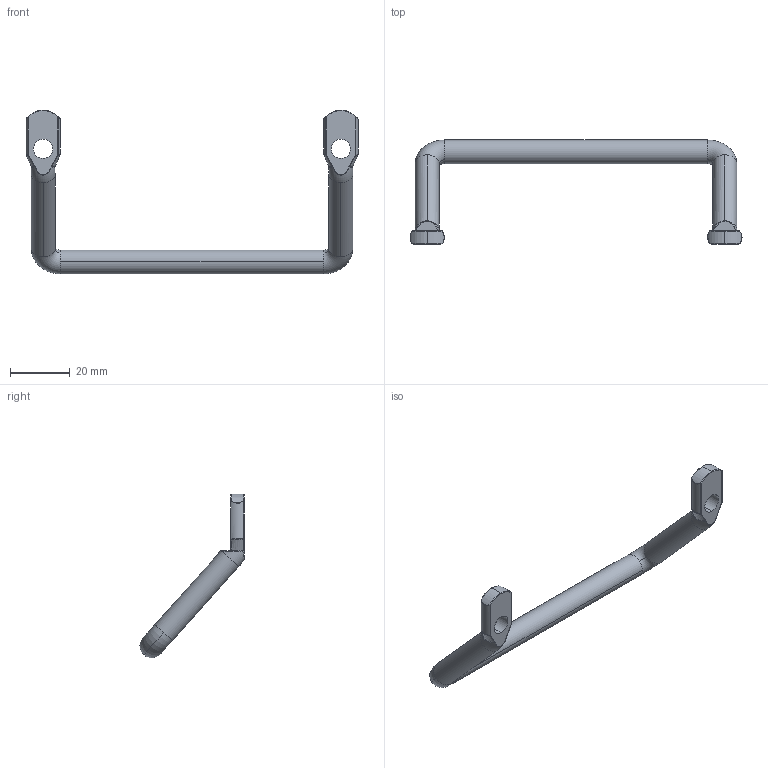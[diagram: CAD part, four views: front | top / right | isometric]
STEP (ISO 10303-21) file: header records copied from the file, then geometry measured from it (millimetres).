
FILE_DESCRIPTION (( 'STEP AP203' ), '1' );
FILE_NAME ('SK4-351S.STEP', '2018-11-02T05:32:17', ( 'admin' ), ( 'Microsoft' ), 'SwSTEP 2.0', 'SolidWorks 2015', '' );
FILE_SCHEMA (( 'CONFIG_CONTROL_DESIGN' ));
Length unit declared in the file: millimetre
Products named in the file (1): SK4-351S
Bounding box: 111.5 x 35 x 54.99 mm (x, y, z)
Volume: 10468.3 mm3; surface area: 5736 mm2
Topology: 1 solids, 1 shells, 111 faces, 270 edges, 153 vertices
Faces by surface type: bspline 57, cylinder 30, torus 10, sphere 8, plane 6
Entity records: 5145 total; most frequent: CARTESIAN_POINT 2911, ORIENTED_EDGE 524, DIRECTION 362, EDGE_CURVE 262, AXIS2_PLACEMENT_3D 164, VERTEX_POINT 153, EDGE_LOOP 115, B_SPLINE_CURVE_WITH_KNOTS 112
